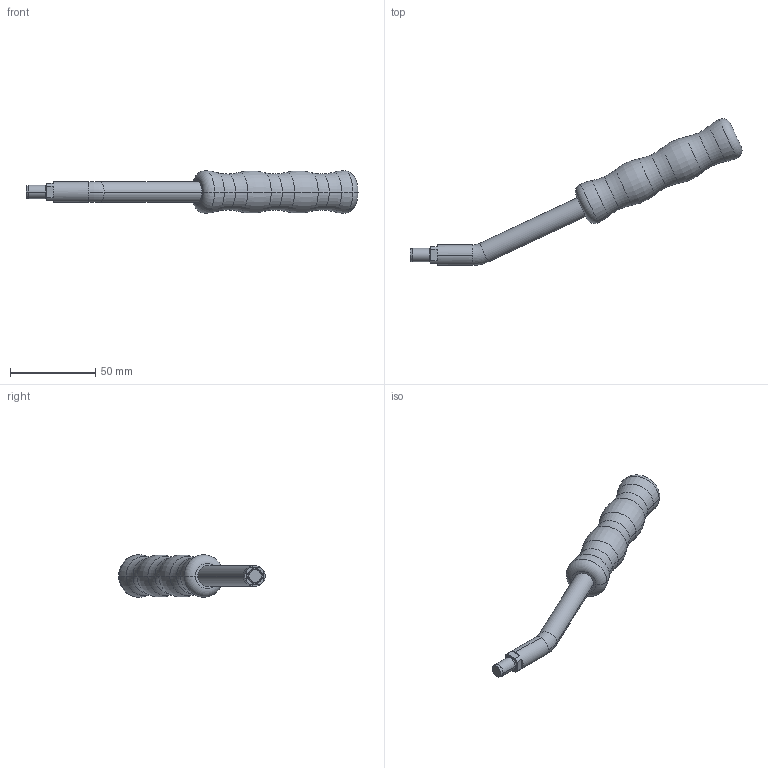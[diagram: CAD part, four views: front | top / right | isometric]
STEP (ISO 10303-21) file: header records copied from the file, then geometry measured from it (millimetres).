
FILE_DESCRIPTION (( 'STEP AP214' ), '1' );
FILE_NAME ('44500.STEP', '2023-01-09T06:30:56', ( '' ), ( '' ), 'SwSTEP 2.0', 'SolidWorks 2021', '' );
FILE_SCHEMA (( 'AUTOMOTIVE_DESIGN' ));
Length unit declared in the file: millimetre
Products named in the file (1): 44500
Bounding box: 195.03 x 86.12 x 24.98 mm (x, y, z)
Volume: 52868.5 mm3; surface area: 14260.1 mm2
Topology: 2 solids, 2 shells, 71 faces, 152 edges, 87 vertices
Faces by surface type: torus 32, plane 15, cylinder 14, cone 10
Entity records: 2746 total; most frequent: DIRECTION 404, CARTESIAN_POINT 309, ORIENTED_EDGE 300, AXIS2_PLACEMENT_3D 182, EDGE_CURVE 150, CIRCLE 110, VERTEX_POINT 87, UNCERTAINTY_MEASURE_WITH_UNIT 75
